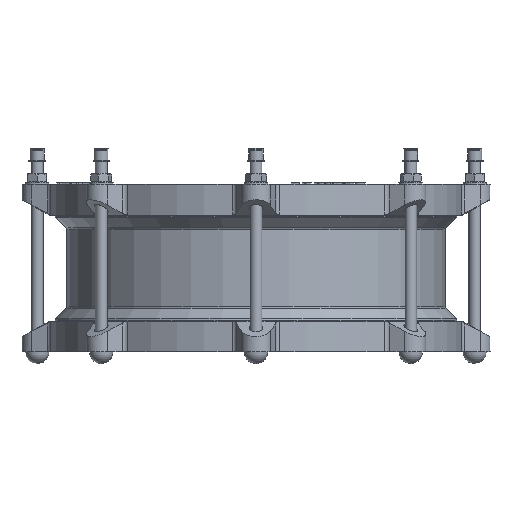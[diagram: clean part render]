
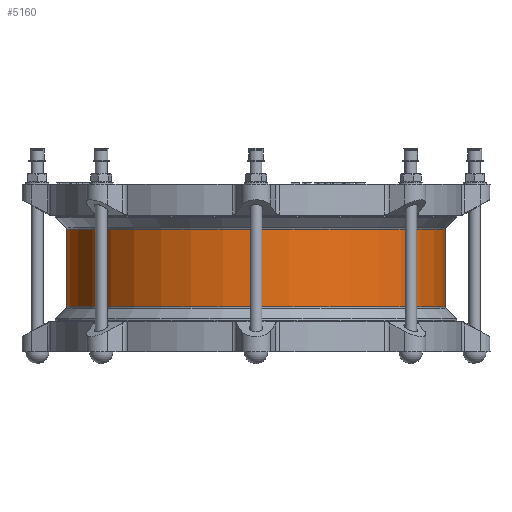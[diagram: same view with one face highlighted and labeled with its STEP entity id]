
A CAD part, front view. The second image highlights one B-rep face of the part: STEP entity #5160.
In plain terms, the highlighted cylindrical face has radius 224.5 mm (diameter 449 mm), a full revolution.
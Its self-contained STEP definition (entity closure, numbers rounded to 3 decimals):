
#5160=ADVANCED_FACE('',(#9789,#9791),#9793,.T.);
#9789=FACE_OUTER_BOUND('',#9790,.T.);
#9790=EDGE_LOOP('',(#14273));
#9791=FACE_OUTER_BOUND('',#9792,.T.);
#9792=EDGE_LOOP('',(#14274));
#9793=CYLINDRICAL_SURFACE('',#9794,224.5);
#9794=AXIS2_PLACEMENT_3D('',#9795,#9796,#9797);
#9795=CARTESIAN_POINT('',(0.,0.,47.257));
#9796=DIRECTION('',(0.,0.,-1.));
#9797=DIRECTION('',(0.,1.,0.));
#14273=ORIENTED_EDGE('',*,*,#16303,.T.);
#14274=ORIENTED_EDGE('',*,*,#16304,.F.);
#16303=EDGE_CURVE('',#19035,#19035,#19036,.T.);
#16304=EDGE_CURVE('',#19037,#19037,#19038,.T.);
#19035=VERTEX_POINT('',#29446);
#19036=CIRCLE('',#29447,224.5);
#19037=VERTEX_POINT('',#29451);
#19038=CIRCLE('',#29452,224.5);
#29446=CARTESIAN_POINT('',(0.,224.5,46.015));
#29447=AXIS2_PLACEMENT_3D('',#29448,#29449,#29450);
#29448=CARTESIAN_POINT('',(0.,0.,46.015));
#29449=DIRECTION('',(0.,0.,-1.));
#29450=DIRECTION('',(0.,1.,0.));
#29451=CARTESIAN_POINT('',(0.,224.5,-46.015));
#29452=AXIS2_PLACEMENT_3D('',#29453,#29454,#29455);
#29453=CARTESIAN_POINT('',(0.,0.,-46.015));
#29454=DIRECTION('',(0.,0.,-1.));
#29455=DIRECTION('',(0.,1.,0.));
